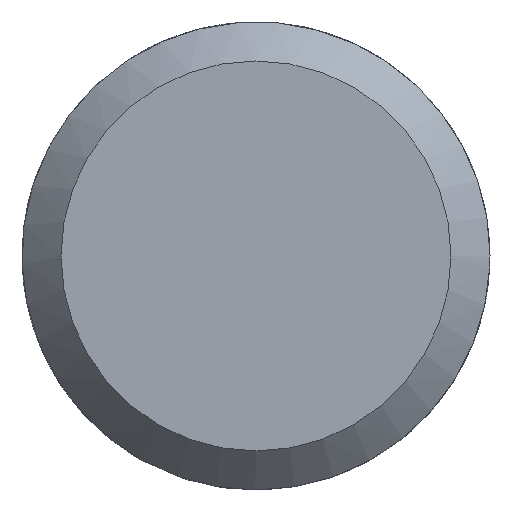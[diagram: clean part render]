
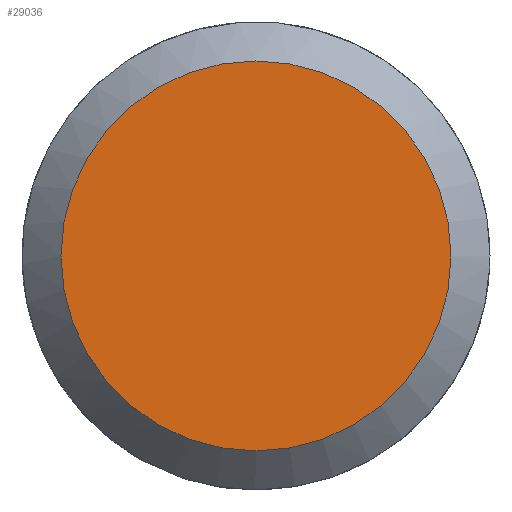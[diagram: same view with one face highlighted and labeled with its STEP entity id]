
A CAD part, left-side view. The second image highlights one B-rep face of the part: STEP entity #29036.
In plain terms, the highlighted planar face has unit normal (-1, 0, 0).
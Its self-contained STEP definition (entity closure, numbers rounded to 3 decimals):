
#8367=PLANE('',#28660);
#10793=ORIENTED_EDGE('',*,*,#11616,.F.);
#10795=CIRCLE('',#28132,2.5);
#11061=VERTEX_POINT('',#14088);
#11616=EDGE_CURVE('',#11061,#11061,#10795,.T.);
#12733=EDGE_LOOP('',(#10793));
#13018=FACE_BOUND('',#12733,.T.);
#13023=DIRECTION('',(1.,0.,0.));
#13024=DIRECTION('',(0.,2.5,0.));
#14079=DIRECTION('',(-1.,0.,0.));
#14080=DIRECTION('',(0.,1.,0.));
#14088=CARTESIAN_POINT('',(94.114,2.782,2.5));
#14089=CARTESIAN_POINT('',(94.114,2.782,0.));
#28127=CARTESIAN_POINT('',(94.114,2.782,0.));
#28132=AXIS2_PLACEMENT_3D('',#14089,#13023,#13024);
#28660=AXIS2_PLACEMENT_3D('',#28127,#14079,#14080);
#29036=ADVANCED_FACE('',(#13018),#8367,.T.);
